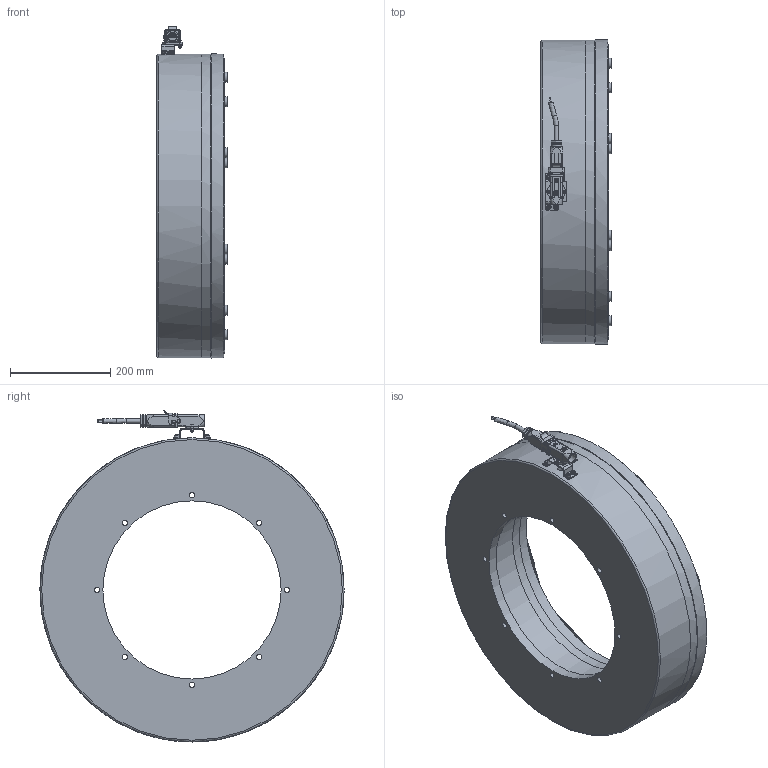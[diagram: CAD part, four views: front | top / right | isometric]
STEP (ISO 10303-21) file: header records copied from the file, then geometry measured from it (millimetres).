
FILE_DESCRIPTION(/* description */ (''),/* implementation_level */ '2;1');
FILE_NAME(/* name */ 'X:\INVENTOR\DISEGNI\08_Freni_Friz_Elettmag_Monodisco\08_28 EMFL_DF\08_28_000_11 EMFL_DF-B\08_28_600_11 EMFL600_DF-B\08_28_600_11 EMFL600_DF-B_S@STEP.stp',/* time_stamp */ '2018-04-23T16:13:20+02:00',/* author */ ('stefano'),/* organization */ (''),/* preprocessor_version */ 'ST-DEVELOPER v17',/* originating_system */ 'Autodesk Inventor 2018',/* authorisation */ '');
FILE_SCHEMA (('AUTOMOTIVE_DESIGN { 1 0 10303 214 3 1 1 }'));
Products named in the file (1): 08_28_600_11 EMFL600_DF-B - Spina_Substitute_1
Bounding box: 140 x 606 x 661.44 mm (x, y, z)
Volume: 21320254.5 mm3; surface area: 1604665.6 mm2
Topology: 3 solids, 3 shells, 1571 faces, 4504 edges, 2994 vertices
Faces by surface type: plane 953, cylinder 496, cone 82, bspline 21, torus 16, sphere 3
Full cylindrical faces by diameter (mm): 0.753 x1, 0.986 x1, 1.05 x1, 2.5 x2, 3 x3, 3.2 x1, 3.25 x2, 3.59 x1, 4 x3, 4.675 x2, 4.8 x2, 5 x20, 5.5 x2, 6 x2, 6.2 x1, 7 x1, 8.2 x2, 8.5 x4, 9.5 x2, 10.5 x8, 12 x1, 13.5 x2, 14 x16, 16 x2, 16.1 x16, 18 x1, 18.6 x1, 19.8 x16, 20 x16, 20.6 x1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
Entity records: 54803 total; most frequent: CARTESIAN_POINT 10456, DIRECTION 9059, ORIENTED_EDGE 8994, EDGE_CURVE 4497, AXIS2_PLACEMENT_3D 3170, VERTEX_POINT 2994, LINE 2719, VECTOR 2719
